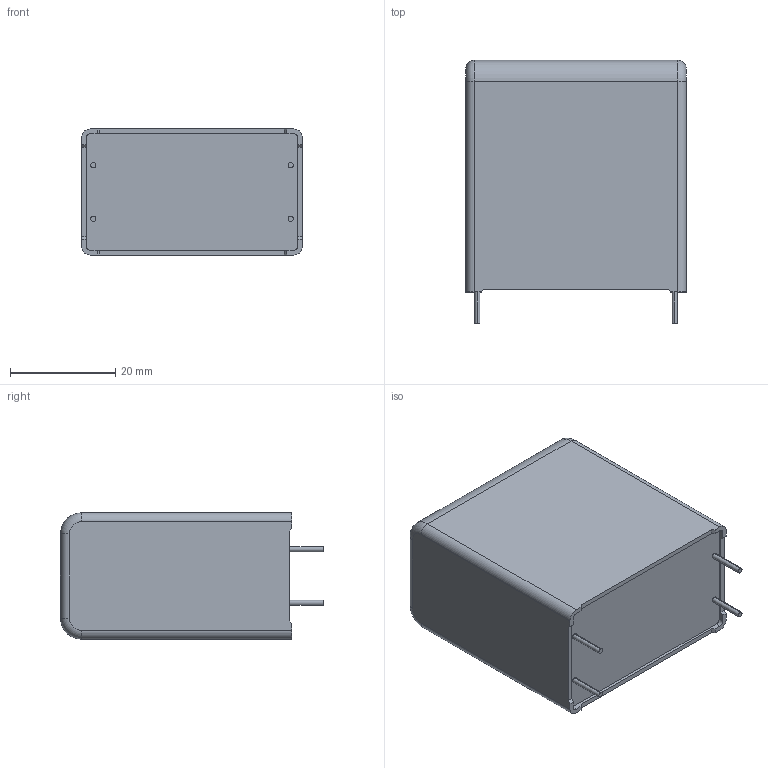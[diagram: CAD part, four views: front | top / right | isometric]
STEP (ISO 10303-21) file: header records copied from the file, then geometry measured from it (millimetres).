
FILE_DESCRIPTION (( 'STEP AP203' ), '1' );
FILE_NAME ('DC_Link_24x44x42_4pins10.2.step', '2017-04-03T15:59:56', ( 'work' ), ( 'Hewlett-Packard Company' ), 'SwSTEP 2.0', 'SolidWorks 2017', '' );
FILE_SCHEMA (( 'CONFIG_CONTROL_DESIGN' ));
Length unit declared in the file: millimetre
Products named in the file (1): DC_Link_24x44x42_4pins10.2
Bounding box: 42 x 50 x 24 mm (x, y, z)
Volume: 43012.7 mm3; surface area: 7610.8 mm2
Topology: 1 solids, 1 shells, 122 faces, 319 edges, 210 vertices
Faces by surface type: plane 82, cylinder 20, bspline 16, torus 4
Entity records: 4492 total; most frequent: CARTESIAN_POINT 1476, ORIENTED_EDGE 638, DIRECTION 545, EDGE_CURVE 319, LINE 243, VECTOR 243, VERTEX_POINT 210, AXIS2_PLACEMENT_3D 151
